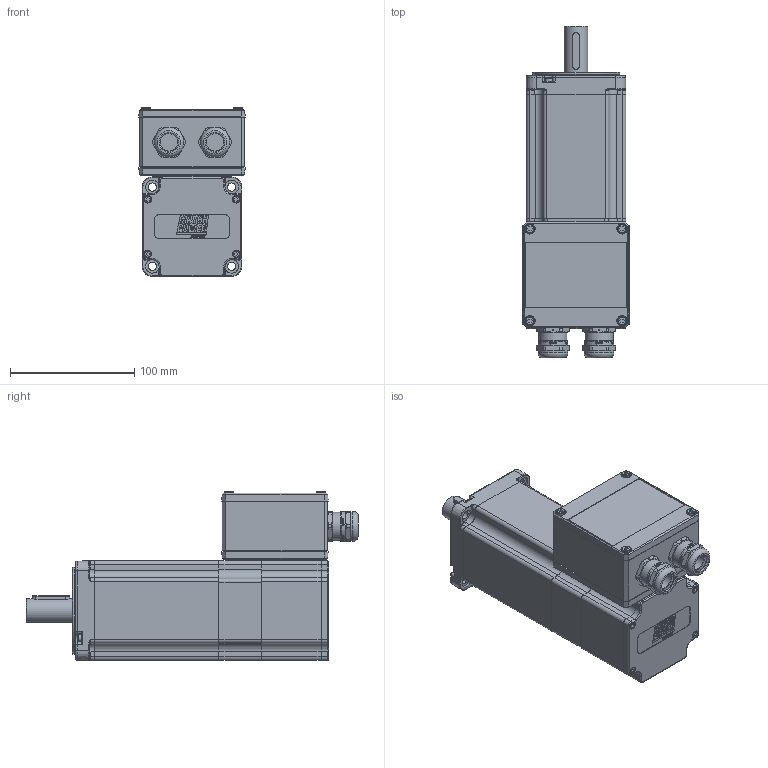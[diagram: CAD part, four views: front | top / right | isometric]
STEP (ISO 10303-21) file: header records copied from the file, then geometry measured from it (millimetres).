
FILE_DESCRIPTION(/* description */ ('Unknown'),/* implementation_level */ '2;1');
FILE_NAME(/* name */ 'TC4-80.3C LV M1 FRENO MORS Q0C152',/* time_stamp */ '2026-06-09T14:39:48+02:00',/* author */ ('Unknown'),/* organization */ ('Unknown'),/* preprocessor_version */ 'ST-DEVELOPER v19.4',/* originating_system */ 'Solid Edge',/* authorisation */ 'Unknown');
FILE_SCHEMA (('AUTOMOTIVE_DESIGN {1 0 10303 214 3 1 1}'));
Products named in the file (25): Q0C152 3C FRENO M1 VUOTO; 005119001500; 003155002220; 003103040223; Albero TC4 80 H50 A19 FRENO LV; 003107003286; 003755100351; 007303000110; 003251040719; 005911000160; 005911000495; 005911000420; 005603000170; 005603000170_Gland; 005603000170_Nut; 005603000170_Clamping insert; 005603000170_Sealing insert; 005603000170_O Ring; 007303000700; 003110000130; 005911000550; 003799004095; 003355001193; 005113000500; DISPERSORE TC4-80 10P H 50 L100 PR. DUET LV 
Assembly tree (38 placements, depth 3):
  Q0C152 3C FRENO M1 VUOTO
    005119001500
    003155002220
    003103040223
    Albero TC4 80 H50 A19 FRENO LV
    003107003286
    003755100351
    007303000110  x2
    003251040719
    005911000160  x4
    005911000495  x4
    005911000420  x4
    005603000170  x2
      005603000170_Gland
      005603000170_Nut
      005603000170_Clamping insert
      005603000170_Sealing insert
      005603000170_O Ring
    007303000700
    003110000130
    005911000550  x4
    003799004095
    003355001193
    005113000500
    DISPERSORE TC4-80 10P H 50 L100 PR. DUET LV 
Bounding box: 85.23 x 266.69 x 135.71 mm (x, y, z)
Volume: 570968.6 mm3; surface area: 299123.3 mm2
Topology: 43 solids, 43 shells, 3130 faces, 8031 edges, 5160 vertices
Faces by surface type: plane 1868, cylinder 642, cone 236, bspline 189, torus 175, sphere 20
Full cylindrical faces by diameter (mm): 1 x8, 2.459 x36, 2.5 x1, 3 x8, 3.2 x1, 3.242 x4, 3.3 x4, 3.5 x16, 4 x8, 4.5 x4, 4.917 x1, 5 x8, 5.15 x8, 5.5 x8, 6 x4, 6.4 x1, 6.5 x4, 6.6 x4, 7 x12, 8 x4, 11 x4, 14 x2, 14.2 x2, 14.3 x2, 15 x2, 16.1 x4, 17 x1, 18.4 x4, 19 x3, 19.2 x4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
Entity records: 85071 total; most frequent: CARTESIAN_POINT 18368, ORIENTED_EDGE 11172, DIRECTION 11090, EDGE_CURVE 5586, AXIS2_PLACEMENT_3D 3949, VERTEX_POINT 3761, LINE 3192, VECTOR 3192
